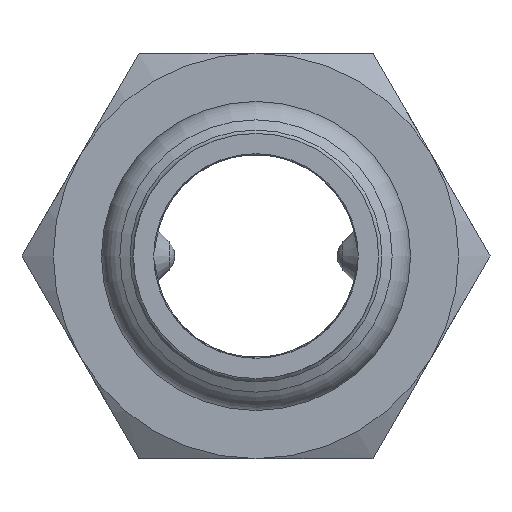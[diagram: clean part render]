
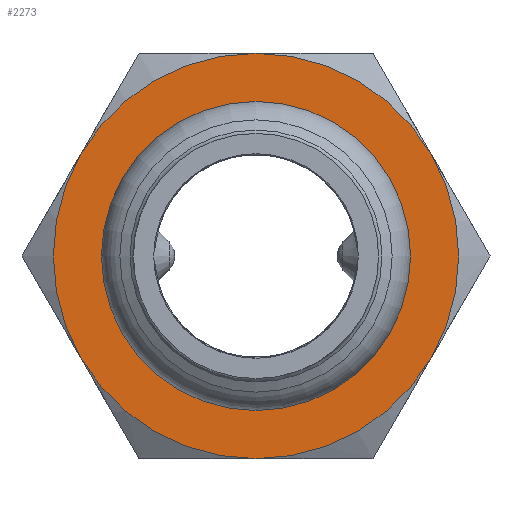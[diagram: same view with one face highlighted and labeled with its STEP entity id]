
A CAD part, left-side view. The second image highlights one B-rep face of the part: STEP entity #2273.
In plain terms, the highlighted planar face has unit normal (-1, 0, 0) as drawn and (0, 0, -1) by its records, which use the part's own axes.
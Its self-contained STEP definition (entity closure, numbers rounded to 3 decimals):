
#1463=CARTESIAN_POINT('',(-12.99,7.5,0.));
#1464=VERTEX_POINT('',#1463);
#1478=CARTESIAN_POINT('',(0.,15.,0.));
#1479=VERTEX_POINT('',#1478);
#1493=CARTESIAN_POINT('',(0.0,0.0,0.0));
#1494=DIRECTION('',(0.0,0.0,-1.0));
#1495=DIRECTION('',(1.0,0.0,0.0));
#1496=AXIS2_PLACEMENT_3D('',#1493,#1494,#1495);
#1497=CIRCLE('',#1496,15.);
#1498=EDGE_CURVE('',#1464,#1479,#1497,.T.);
#1510=CARTESIAN_POINT('',(-12.99,-7.5,0.));
#1511=VERTEX_POINT('',#1510);
#1538=CARTESIAN_POINT('',(0.0,0.0,0.0));
#1539=DIRECTION('',(0.0,0.0,-1.0));
#1540=DIRECTION('',(1.0,0.0,0.0));
#1541=AXIS2_PLACEMENT_3D('',#1538,#1539,#1540);
#1542=CIRCLE('',#1541,15.);
#1543=EDGE_CURVE('',#1511,#1464,#1542,.T.);
#1555=CARTESIAN_POINT('',(0.,-15.,0.));
#1556=VERTEX_POINT('',#1555);
#1583=CARTESIAN_POINT('',(0.0,0.0,0.0));
#1584=DIRECTION('',(0.0,0.0,-1.0));
#1585=DIRECTION('',(1.0,0.0,0.0));
#1586=AXIS2_PLACEMENT_3D('',#1583,#1584,#1585);
#1587=CIRCLE('',#1586,15.);
#1588=EDGE_CURVE('',#1556,#1511,#1587,.T.);
#1613=CARTESIAN_POINT('',(12.99,-7.5,0.));
#1614=VERTEX_POINT('',#1613);
#1615=CARTESIAN_POINT('',(0.0,0.0,0.0));
#1616=DIRECTION('',(0.0,0.0,-1.0));
#1617=DIRECTION('',(1.0,0.0,0.0));
#1618=AXIS2_PLACEMENT_3D('',#1615,#1616,#1617);
#1619=CIRCLE('',#1618,15.);
#1620=EDGE_CURVE('',#1614,#1556,#1619,.T.);
#1658=CARTESIAN_POINT('',(12.99,7.5,0.));
#1659=VERTEX_POINT('',#1658);
#1660=CARTESIAN_POINT('',(0.0,0.0,0.0));
#1661=DIRECTION('',(0.0,0.0,-1.0));
#1662=DIRECTION('',(1.0,0.0,0.0));
#1663=AXIS2_PLACEMENT_3D('',#1660,#1661,#1662);
#1664=CIRCLE('',#1663,15.);
#1665=EDGE_CURVE('',#1659,#1614,#1664,.T.);
#1703=CARTESIAN_POINT('',(0.0,0.0,0.0));
#1704=DIRECTION('',(0.0,0.0,-1.0));
#1705=DIRECTION('',(1.0,0.0,0.0));
#1706=AXIS2_PLACEMENT_3D('',#1703,#1704,#1705);
#1707=CIRCLE('',#1706,15.);
#1708=EDGE_CURVE('',#1479,#1659,#1707,.T.);
#2181=CARTESIAN_POINT('',(-9.25,0.0,0.0));
#2182=VERTEX_POINT('',#2181);
#2183=CARTESIAN_POINT('',(0.0,0.0,0.0));
#2184=DIRECTION('',(0.0,0.0,1.0));
#2185=DIRECTION('',(-1.0,0.0,0.0));
#2186=AXIS2_PLACEMENT_3D('',#2183,#2184,#2185);
#2187=CIRCLE('',#2186,9.25);
#2188=EDGE_CURVE('',#2182,#2182,#2187,.T.);
#2257=CARTESIAN_POINT('',(0.,0.,0.0));
#2258=DIRECTION('',(0.0,0.0,1.0));
#2259=DIRECTION('',(1.0,0.0,0.0));
#2260=AXIS2_PLACEMENT_3D('',#2257,#2258,#2259);
#2261=PLANE('',#2260);
#2262=ORIENTED_EDGE('',*,*,#1708,.T.);
#2263=ORIENTED_EDGE('',*,*,#1665,.T.);
#2264=ORIENTED_EDGE('',*,*,#1620,.T.);
#2265=ORIENTED_EDGE('',*,*,#1588,.T.);
#2266=ORIENTED_EDGE('',*,*,#1543,.T.);
#2267=ORIENTED_EDGE('',*,*,#1498,.T.);
#2268=EDGE_LOOP('',(#2262,#2263,#2264,#2265,#2266,#2267));
#2269=FACE_OUTER_BOUND('',#2268,.T.);
#2270=ORIENTED_EDGE('',*,*,#2188,.T.);
#2271=EDGE_LOOP('',(#2270));
#2272=FACE_BOUND('',#2271,.T.);
#2273=ADVANCED_FACE('',(#2269,#2272),#2261,.F.);
